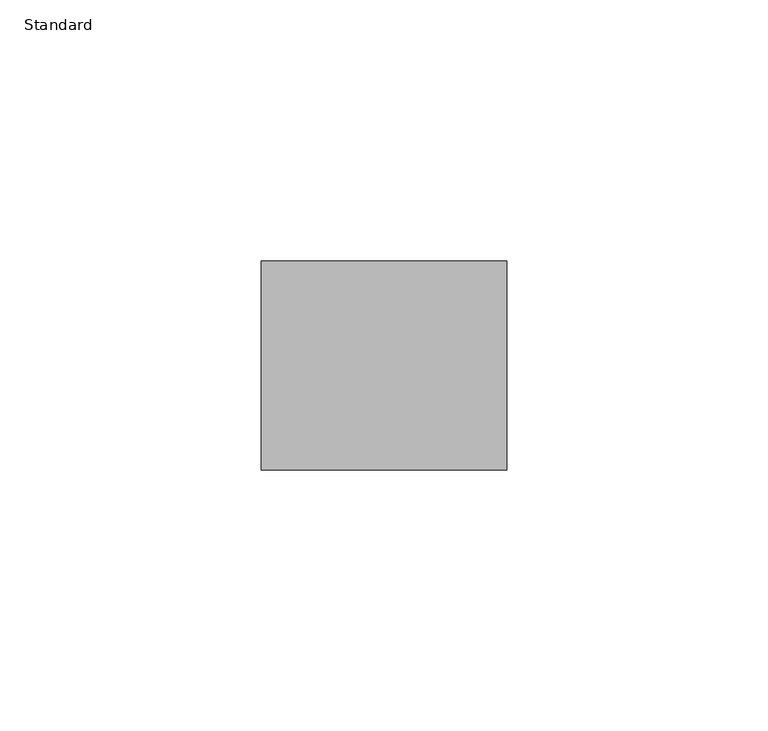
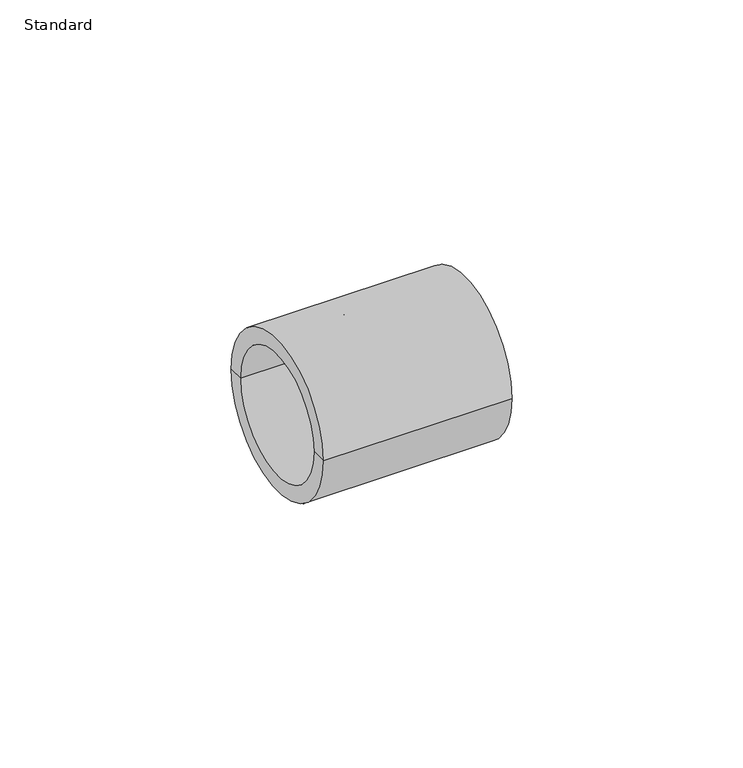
"""IFC4 building model written with IfcOpenShell, lengths in millimetres: pipe fitting geometry, Durapipe_PipeFitting_PVC_Socket : Standard."""

from ifc_helpers import new_model, si_unit, frame, origin, place, context, project, spatial, polyline, circle_curve, source, transform, mapped, element, save
from ifc_brep_helpers import plane_surface, cylinder_surface, revolved_surface, advanced_brep


def standard_f3d50f89(model_context):
    return source(origin(), model_context, "Body", "AdvancedBrep", [
        advanced_brep(
        [(-23.5, -20.0, 0.0), (-23.5, 20.0, 0.0), (23.5, 20.0, 0.0), (23.5, -20.0, 0.0), (-23.5, -16.0, 0.0), (-23.5, 16.0, 0.0), (1.5, -13.0, 0.0), (1.5, 13.0, 0.0), (-1.5, 13.0, 0.0), (-1.5, -13.0, 0.0), (23.5, 16.0, 0.0), (23.5, -16.0, 0.0), (-1.5, -16.0, 0.0), (-1.5, 16.0, 0.0), (1.5, -16.0, 0.0), (1.5, 16.0, 0.0)],
        [
            (0, 1, circle_curve(frame((-23.5, 0.0, 0.0), z_axis=(1.0, 0.0, 0.0), x_axis=(0.0, 1.0, 0.0)), 20.0)),
            (1, 2),
            (2, 3, circle_curve(frame((23.5, 0.0, 0.0), z_axis=(-1.0, 0.0, 0.0), x_axis=(0.0, 1.0, 0.0)), 20.0)),
            (3, 0),
            (1, 0, circle_curve(frame((-23.5, 0.0, 0.0), z_axis=(1.0, 0.0, 0.0), x_axis=(0.0, 1.0, 0.0)), 20.0)),
            (3, 2, circle_curve(frame((23.5, 0.0, 0.0), z_axis=(-1.0, 0.0, 0.0), x_axis=(0.0, 1.0, 0.0)), 20.0)),
            (4, 5, circle_curve(frame((-23.5, 0.0, 0.0), z_axis=(1.0, 0.0, 0.0), x_axis=(0.0, 1.0, 0.0)), 16.0)),
            (5, 1),
            (0, 4),
            (5, 4, circle_curve(frame((-23.5, 0.0, 0.0), z_axis=(1.0, 0.0, 0.0), x_axis=(0.0, 1.0, 0.0)), 16.0)),
            (6, 7, circle_curve(frame((1.5, 0.0, 0.0), z_axis=(1.0, 0.0, 0.0), x_axis=(0.0, 1.0, 0.0)), 13.0)),
            (7, 8),
            (8, 9, circle_curve(frame((-1.5, 0.0, 0.0), z_axis=(-1.0, 0.0, 0.0), x_axis=(0.0, 1.0, 0.0)), 13.0)),
            (9, 6),
            (7, 6, circle_curve(frame((1.5, 0.0, 0.0), z_axis=(1.0, 0.0, 0.0), x_axis=(0.0, 1.0, 0.0)), 13.0)),
            (9, 8, circle_curve(frame((-1.5, 0.0, 0.0), z_axis=(-1.0, 0.0, 0.0), x_axis=(0.0, 1.0, 0.0)), 13.0)),
            (2, 10),
            (10, 11, circle_curve(frame((23.5, 0.0, 0.0), z_axis=(-1.0, 0.0, 0.0), x_axis=(0.0, 1.0, 0.0)), 16.0)),
            (11, 3),
            (11, 10, circle_curve(frame((23.5, 0.0, 0.0), z_axis=(-1.0, 0.0, 0.0), x_axis=(0.0, 1.0, 0.0)), 16.0)),
            (12, 13, circle_curve(frame((-1.5, 0.0, 0.0), z_axis=(1.0, 0.0, 0.0), x_axis=(0.0, 1.0, 0.0)), 16.0)),
            (13, 5),
            (4, 12),
            (13, 12, circle_curve(frame((-1.5, 0.0, 0.0), z_axis=(1.0, 0.0, 0.0), x_axis=(0.0, 1.0, 0.0)), 16.0)),
            (8, 13),
            (12, 9),
            (14, 15, circle_curve(frame((1.5, 0.0, 0.0), z_axis=(1.0, 0.0, 0.0), x_axis=(0.0, 1.0, 0.0)), 16.0)),
            (15, 7),
            (6, 14),
            (15, 14, circle_curve(frame((1.5, 0.0, 0.0), z_axis=(1.0, 0.0, 0.0), x_axis=(0.0, 1.0, 0.0)), 16.0)),
            (10, 15),
            (14, 11),
        ],
        [
            cylinder_surface(frame((-23.5, 0.0, 0.0), z_axis=(-1.0, 0.0, 0.0), x_axis=(0.0, 1.0, 0.0)), 20.0),
            plane_surface(frame((-23.5, 0.0, 0.0), z_axis=(-1.0, 0.0, 0.0), x_axis=(0.0, 1.0, 0.0))),
            revolved_surface(polyline([(-1.5, 13.0, 0.0), (1.5, 13.0, 0.0)]), (-23.5, 0.0, 0.0), (-1.0, 0.0, 0.0)),
            plane_surface(frame((23.5, 0.0, 0.0), z_axis=(1.0, 0.0, 0.0), x_axis=(0.0, 1.0, 0.0))),
            revolved_surface(polyline([(-23.5, 16.0, 0.0), (-1.5, 16.0, 0.0)]), (-23.5, 0.0, 0.0), (-1.0, 0.0, 0.0)),
            plane_surface(frame((-1.5, 0.0, 0.0), z_axis=(-1.0, 0.0, 0.0), x_axis=(0.0, 1.0, 0.0))),
            plane_surface(frame((1.5, 0.0, 0.0), z_axis=(1.0, 0.0, 0.0), x_axis=(0.0, 1.0, 0.0))),
            revolved_surface(polyline([(1.5, 16.0, 0.0), (23.5, 16.0, 0.0)]), (-23.5, 0.0, 0.0), (-1.0, 0.0, 0.0)),
        ],
        [
            (0, [[1, 2, 3, 4]]),
            (0, [[5, -4, 6, -2]]),
            (1, [[7, 8, -1, 9]]),
            (1, [[10, -9, -5, -8]]),
            (2, [[11, 12, 13, 14]]),
            (2, [[15, -14, 16, -12]]),
            (3, [[-3, 17, 18, 19]]),
            (3, [[-6, -19, 20, -17]]),
            (4, [[21, 22, -7, 23]]),
            (4, [[24, -23, -10, -22]]),
            (5, [[-13, 25, -21, 26]]),
            (5, [[-16, -26, -24, -25]]),
            (6, [[27, 28, -11, 29]]),
            (6, [[30, -29, -15, -28]]),
            (7, [[-18, 31, -27, 32]]),
            (7, [[-20, -32, -30, -31]]),
        ],
    ),
    ])


if __name__ == "__main__":
    model = new_model("IFC4")
    model_context = context("Model", 3, world=origin())
    ifc_project = project(units=[si_unit("LENGTHUNIT", "METRE", prefix="MILLI")], contexts=[model_context])
    site = spatial("IfcSite", under=ifc_project)
    building = spatial("IfcBuilding", under=site)
    placement = place(None, origin())
    standard_shape = standard_f3d50f89(model_context)
    element("IfcPipeFitting", 1, ObjectType="Durapipe_PipeFitting_PVC_Socket : Standard", at=placement, inside=building, context=model_context, shape_type="MappedRepresentation", body=[
        mapped(standard_shape, transform((0.0, 0.0, 0.0), x_axis=(1.0, 0.0, 0.0), y_axis=(0.0, 1.0, 0.0), z_axis=(0.0, 0.0, 1.0))),
    ])
    save(model, "model.ifc")
